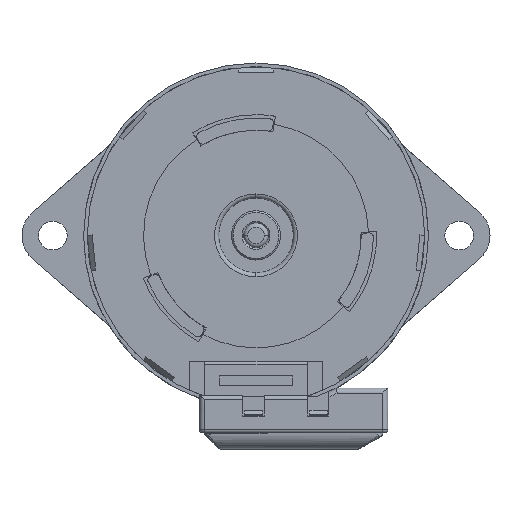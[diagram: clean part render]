
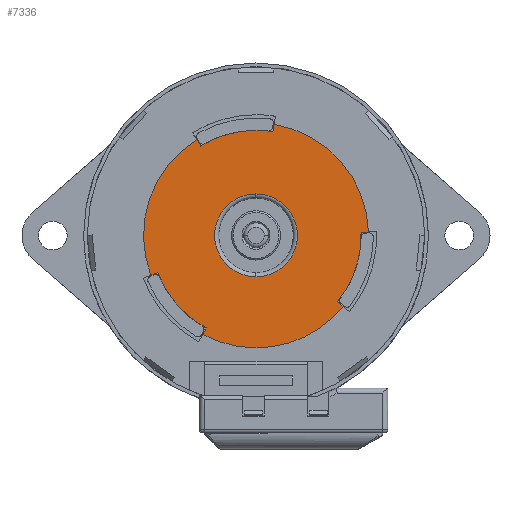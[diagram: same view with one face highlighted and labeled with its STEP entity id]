
A CAD part, top view. The second image highlights one B-rep face of the part: STEP entity #7336.
In plain terms, the highlighted planar face has unit normal (0, 0, 1).
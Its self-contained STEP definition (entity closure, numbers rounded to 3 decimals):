
#67 = EDGE_CURVE ( 'NONE', #9440, #10226, #12635, .T. ) ;
#148 = DIRECTION ( 'NONE',  ( 0., 0., -1. ) ) ;
#183 = AXIS2_PLACEMENT_3D ( 'NONE', #14564, #11338, #13356 ) ;
#213 = EDGE_CURVE ( 'NONE', #4277, #4205, #9372, .T. ) ;
#313 = CIRCLE ( 'NONE', #12744, 12.8 ) ;
#343 = DIRECTION ( 'NONE',  ( 0., 0., -1. ) ) ;
#373 = EDGE_CURVE ( 'NONE', #12090, #9953, #5595, .T. ) ;
#515 = ORIENTED_EDGE ( 'NONE', *, *, #13740, .F. ) ;
#655 = CIRCLE ( 'NONE', #3511, 12.8 ) ;
#772 = CIRCLE ( 'NONE', #11775, 13.7 ) ;
#921 = CARTESIAN_POINT ( 'NONE',  ( 0., 5.05, 15.28 ) ) ;
#978 = EDGE_LOOP ( 'NONE', ( #12678, #8975 ) ) ;
#1102 = CIRCLE ( 'NONE', #9479, 5.05 ) ;
#1123 = DIRECTION ( 'NONE',  ( 0., 1., 0. ) ) ;
#1130 = DIRECTION ( 'NONE',  ( 0., -1., 0. ) ) ;
#1149 = DIRECTION ( 'NONE',  ( 0., 0., 1. ) ) ;
#1396 = AXIS2_PLACEMENT_3D ( 'NONE', #11324, #13713, #1123 ) ;
#1426 = LINE ( 'NONE', #14096, #13708 ) ;
#1471 = VERTEX_POINT ( 'NONE', #13383 ) ;
#1500 = AXIS2_PLACEMENT_3D ( 'NONE', #6614, #6388, #10051 ) ;
#1582 = CARTESIAN_POINT ( 'NONE',  ( -6.058, -11.275, 15.28 ) ) ;
#1624 = CARTESIAN_POINT ( 'NONE',  ( 9.912, -8.099, 15.28 ) ) ;
#1626 = ORIENTED_EDGE ( 'NONE', *, *, #3290, .F. ) ;
#1668 = CARTESIAN_POINT ( 'NONE',  ( 0., 0., 15.28 ) ) ;
#1822 = EDGE_LOOP ( 'NONE', ( #9611, #4984, #4140, #6134, #4488, #1626, #7736, #6286, #10488, #7915, #8318, #515, #8144, #9536 ) ) ;
#1980 = EDGE_CURVE ( 'NONE', #9953, #4277, #7967, .T. ) ;
#1999 = EDGE_CURVE ( 'NONE', #3347, #4067, #9378, .T. ) ;
#2114 = CARTESIAN_POINT ( 'NONE',  ( 0., 0., 15.28 ) ) ;
#2191 = DIRECTION ( 'NONE',  ( 0., 1., 0. ) ) ;
#2219 = CIRCLE ( 'NONE', #1500, 13.7 ) ;
#2577 = CARTESIAN_POINT ( 'NONE',  ( 13.694, 0.418, 15.28 ) ) ;
#2700 = CARTESIAN_POINT ( 'NONE',  ( -6.484, -12.068, 15.28 ) ) ;
#2720 = EDGE_CURVE ( 'NONE', #13467, #13252, #7205, .T. ) ;
#3091 = DIRECTION ( 'NONE',  ( 0., 0., -1. ) ) ;
#3250 = CARTESIAN_POINT ( 'NONE',  ( 11.384, -9.301, 15.28 ) ) ;
#3290 = EDGE_CURVE ( 'NONE', #9184, #1471, #7166, .T. ) ;
#3319 = FACE_OUTER_BOUND ( 'NONE', #1822, .T. ) ;
#3347 = VERTEX_POINT ( 'NONE', #5967 ) ;
#3511 = AXIS2_PLACEMENT_3D ( 'NONE', #6889, #11524, #8231 ) ;
#3559 = CARTESIAN_POINT ( 'NONE',  ( 14.693, 0.449, 15.28 ) ) ;
#3858 = VERTEX_POINT ( 'NONE', #14486 ) ;
#3986 = EDGE_CURVE ( 'NONE', #1471, #3347, #772, .T. ) ;
#4067 = VERTEX_POINT ( 'NONE', #7057 ) ;
#4140 = ORIENTED_EDGE ( 'NONE', *, *, #5659, .F. ) ;
#4205 = VERTEX_POINT ( 'NONE', #2700 ) ;
#4211 = EDGE_CURVE ( 'NONE', #13252, #9339, #1426, .T. ) ;
#4277 = VERTEX_POINT ( 'NONE', #10942 ) ;
#4366 = EDGE_CURVE ( 'NONE', #9339, #9440, #2219, .T. ) ;
#4488 = ORIENTED_EDGE ( 'NONE', *, *, #3986, .F. ) ;
#4787 = CARTESIAN_POINT ( 'NONE',  ( -7.735, 12.5, 15.28 ) ) ;
#4887 = CARTESIAN_POINT ( 'NONE',  ( 0., 0., 15.28 ) ) ;
#4951 = EDGE_CURVE ( 'NONE', #3858, #5065, #1102, .T. ) ;
#4984 = ORIENTED_EDGE ( 'NONE', *, *, #2720, .F. ) ;
#5065 = VERTEX_POINT ( 'NONE', #921 ) ;
#5068 = EDGE_CURVE ( 'NONE', #5065, #3858, #13596, .T. ) ;
#5078 = VECTOR ( 'NONE', #10489, 1000. ) ;
#5550 = VECTOR ( 'NONE', #8145, 1000. ) ;
#5554 = CARTESIAN_POINT ( 'NONE',  ( 2.202, 13.522, 15.28 ) ) ;
#5574 = DIRECTION ( 'NONE',  ( 0., -1., 0. ) ) ;
#5595 = LINE ( 'NONE', #3250, #9842 ) ;
#5659 = EDGE_CURVE ( 'NONE', #4067, #13467, #9781, .T. ) ;
#5967 = CARTESIAN_POINT ( 'NONE',  ( -7.209, 11.65, 15.28 ) ) ;
#5999 = CARTESIAN_POINT ( 'NONE',  ( 0., 12.8, 15.28 ) ) ;
#6134 = ORIENTED_EDGE ( 'NONE', *, *, #1999, .F. ) ;
#6266 = AXIS2_PLACEMENT_3D ( 'NONE', #12847, #343, #7245 ) ;
#6286 = ORIENTED_EDGE ( 'NONE', *, *, #8866, .F. ) ;
#6388 = DIRECTION ( 'NONE',  ( 0., 0., -1. ) ) ;
#6614 = CARTESIAN_POINT ( 'NONE',  ( 0., 0., 15.28 ) ) ;
#6701 = CARTESIAN_POINT ( 'NONE',  ( 2.058, 12.634, 15.28 ) ) ;
#6706 = DIRECTION ( 'NONE',  ( 0., 0., -1. ) ) ;
#6889 = CARTESIAN_POINT ( 'NONE',  ( 0., 0., 15.28 ) ) ;
#6975 = VECTOR ( 'NONE', #9417, 1000. ) ;
#7057 = CARTESIAN_POINT ( 'NONE',  ( -6.736, 10.885, 15.28 ) ) ;
#7166 = LINE ( 'NONE', #13827, #6975 ) ;
#7205 = CIRCLE ( 'NONE', #7935, 12.8 ) ;
#7245 = DIRECTION ( 'NONE',  ( 0., -1., 0. ) ) ;
#7300 = DIRECTION ( 'NONE',  ( 0., 1., 0. ) ) ;
#7336 = ADVANCED_FACE ( 'NONE', ( #3319, #10218 ), #9242, .T. ) ;
#7736 = ORIENTED_EDGE ( 'NONE', *, *, #11996, .F. ) ;
#7915 = ORIENTED_EDGE ( 'NONE', *, *, #1980, .F. ) ;
#7935 = AXIS2_PLACEMENT_3D ( 'NONE', #4887, #14189, #7300 ) ;
#7967 = CIRCLE ( 'NONE', #13697, 13.7 ) ;
#8144 = ORIENTED_EDGE ( 'NONE', *, *, #67, .F. ) ;
#8145 = DIRECTION ( 'NONE',  ( -1., -0.031, 0. ) ) ;
#8231 = DIRECTION ( 'NONE',  ( 0., 1., 0. ) ) ;
#8318 = ORIENTED_EDGE ( 'NONE', *, *, #373, .F. ) ;
#8652 = DIRECTION ( 'NONE',  ( 0., 1., 0. ) ) ;
#8866 = EDGE_CURVE ( 'NONE', #4205, #10089, #11181, .T. ) ;
#8975 = ORIENTED_EDGE ( 'NONE', *, *, #4951, .T. ) ;
#9040 = DIRECTION ( 'NONE',  ( 0.774, -0.633, 0. ) ) ;
#9184 = VERTEX_POINT ( 'NONE', #13335 ) ;
#9242 = PLANE ( 'NONE',  #10679 ) ;
#9339 = VERTEX_POINT ( 'NONE', #5554 ) ;
#9372 = CIRCLE ( 'NONE', #6266, 13.7 ) ;
#9378 = LINE ( 'NONE', #4787, #5078 ) ;
#9417 = DIRECTION ( 'NONE',  ( -0.935, -0.354, 0. ) ) ;
#9440 = VERTEX_POINT ( 'NONE', #2577 ) ;
#9479 = AXIS2_PLACEMENT_3D ( 'NONE', #1668, #13061, #8652 ) ;
#9536 = ORIENTED_EDGE ( 'NONE', *, *, #4366, .F. ) ;
#9611 = ORIENTED_EDGE ( 'NONE', *, *, #4211, .F. ) ;
#9781 = CIRCLE ( 'NONE', #1396, 12.8 ) ;
#9842 = VECTOR ( 'NONE', #9040, 1000. ) ;
#9953 = VERTEX_POINT ( 'NONE', #12601 ) ;
#10051 = DIRECTION ( 'NONE',  ( 0., -1., 0. ) ) ;
#10075 = VECTOR ( 'NONE', #12229, 1000. ) ;
#10089 = VERTEX_POINT ( 'NONE', #1582 ) ;
#10218 = FACE_BOUND ( 'NONE', #978, .T. ) ;
#10226 = VERTEX_POINT ( 'NONE', #11325 ) ;
#10488 = ORIENTED_EDGE ( 'NONE', *, *, #213, .F. ) ;
#10489 = DIRECTION ( 'NONE',  ( 0.526, -0.85, 0. ) ) ;
#10679 = AXIS2_PLACEMENT_3D ( 'NONE', #12392, #1149, #13737 ) ;
#10880 = CARTESIAN_POINT ( 'NONE',  ( -6.958, -12.949, 15.28 ) ) ;
#10942 = CARTESIAN_POINT ( 'NONE',  ( 0., -13.7, 15.28 ) ) ;
#11181 = LINE ( 'NONE', #10880, #10075 ) ;
#11324 = CARTESIAN_POINT ( 'NONE',  ( 0., 0., 15.28 ) ) ;
#11325 = CARTESIAN_POINT ( 'NONE',  ( 12.794, 0.391, 15.28 ) ) ;
#11338 = DIRECTION ( 'NONE',  ( 0., 0., -1. ) ) ;
#11404 = CARTESIAN_POINT ( 'NONE',  ( 0., 0., 15.28 ) ) ;
#11524 = DIRECTION ( 'NONE',  ( 0., 0., -1. ) ) ;
#11775 = AXIS2_PLACEMENT_3D ( 'NONE', #2114, #6706, #5574 ) ;
#11996 = EDGE_CURVE ( 'NONE', #10089, #9184, #655, .T. ) ;
#12090 = VERTEX_POINT ( 'NONE', #1624 ) ;
#12229 = DIRECTION ( 'NONE',  ( 0.473, 0.881, 0. ) ) ;
#12392 = CARTESIAN_POINT ( 'NONE',  ( 4.55, 0., 15.28 ) ) ;
#12601 = CARTESIAN_POINT ( 'NONE',  ( 10.609, -8.668, 15.28 ) ) ;
#12635 = LINE ( 'NONE', #3559, #5550 ) ;
#12678 = ORIENTED_EDGE ( 'NONE', *, *, #5068, .T. ) ;
#12731 = CARTESIAN_POINT ( 'NONE',  ( 0., 0., 15.28 ) ) ;
#12744 = AXIS2_PLACEMENT_3D ( 'NONE', #11404, #3091, #2191 ) ;
#12847 = CARTESIAN_POINT ( 'NONE',  ( 0., 0., 15.28 ) ) ;
#13061 = DIRECTION ( 'NONE',  ( 0., 0., -1. ) ) ;
#13252 = VERTEX_POINT ( 'NONE', #6701 ) ;
#13335 = CARTESIAN_POINT ( 'NONE',  ( -11.97, -4.535, 15.28 ) ) ;
#13356 = DIRECTION ( 'NONE',  ( 0., 1., 0. ) ) ;
#13383 = CARTESIAN_POINT ( 'NONE',  ( -12.811, -4.854, 15.28 ) ) ;
#13467 = VERTEX_POINT ( 'NONE', #5999 ) ;
#13596 = CIRCLE ( 'NONE', #183, 5.05 ) ;
#13697 = AXIS2_PLACEMENT_3D ( 'NONE', #12731, #148, #1130 ) ;
#13708 = VECTOR ( 'NONE', #14245, 1000. ) ;
#13713 = DIRECTION ( 'NONE',  ( 0., 0., -1. ) ) ;
#13737 = DIRECTION ( 'NONE',  ( 0., 1., 0. ) ) ;
#13740 = EDGE_CURVE ( 'NONE', #10226, #12090, #313, .T. ) ;
#13827 = CARTESIAN_POINT ( 'NONE',  ( -13.746, -5.208, 15.28 ) ) ;
#14096 = CARTESIAN_POINT ( 'NONE',  ( 2.363, 14.509, 15.28 ) ) ;
#14189 = DIRECTION ( 'NONE',  ( 0., 0., -1. ) ) ;
#14245 = DIRECTION ( 'NONE',  ( 0.161, 0.987, 0. ) ) ;
#14486 = CARTESIAN_POINT ( 'NONE',  ( 0., -5.05, 15.28 ) ) ;
#14564 = CARTESIAN_POINT ( 'NONE',  ( 0., 0., 15.28 ) ) ;
